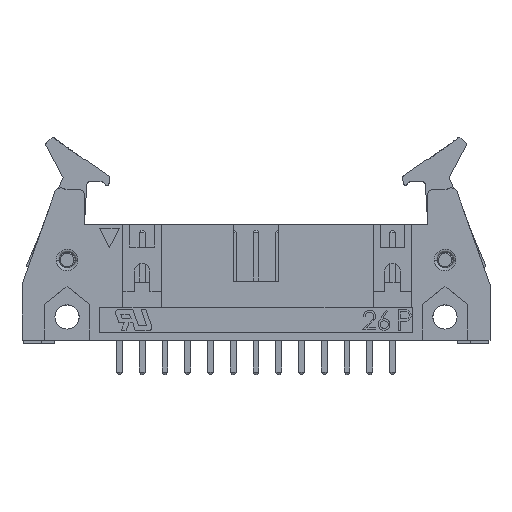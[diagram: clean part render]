
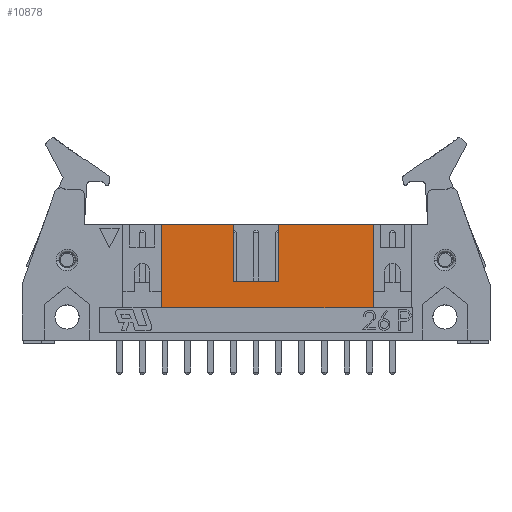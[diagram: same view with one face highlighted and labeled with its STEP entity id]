
A CAD part, top view. The second image highlights one B-rep face of the part: STEP entity #10878.
In plain terms, the highlighted planar face has unit normal (0, 0, 1).
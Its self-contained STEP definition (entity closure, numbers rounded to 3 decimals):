
#170 = PLANE ( 'NONE',  #525 ) ;
#172 = CARTESIAN_POINT ( 'NONE',  ( 485.219, 55.628, 0. ) ) ;
#176 = FACE_OUTER_BOUND ( 'NONE', #2492, .T. ) ;
#178 = DIRECTION ( 'NONE',  ( 0., 0., 1. ) ) ;
#179 = DIRECTION ( 'NONE',  ( 1., 0., 0. ) ) ;
#525 = AXIS2_PLACEMENT_3D ( 'NONE', #172, #178, #179 ) ;
#752 = ORIENTED_EDGE ( 'NONE', *, *, #2166, .T. ) ;
#860 = ORIENTED_EDGE ( 'NONE', *, *, #2173, .T. ) ;
#917 = ORIENTED_EDGE ( 'NONE', *, *, #2136, .T. ) ;
#940 = ORIENTED_EDGE ( 'NONE', *, *, #2139, .T. ) ;
#968 = ORIENTED_EDGE ( 'NONE', *, *, #1596, .T. ) ;
#969 = ORIENTED_EDGE ( 'NONE', *, *, #9618, .T. ) ;
#980 = ORIENTED_EDGE ( 'NONE', *, *, #1584, .T. ) ;
#981 = ORIENTED_EDGE ( 'NONE', *, *, #1524, .T. ) ;
#1366 = VECTOR ( 'NONE', #12771, 1000. ) ;
#1524 = EDGE_CURVE ( 'NONE', #10249, #10240, #12413, .T. ) ;
#1584 = EDGE_CURVE ( 'NONE', #10240, #10247, #12709, .T. ) ;
#1596 = EDGE_CURVE ( 'NONE', #10239, #10249, #12755, .T. ) ;
#2136 = EDGE_CURVE ( 'NONE', #10283, #10278, #6577, .T. ) ;
#2139 = EDGE_CURVE ( 'NONE', #10286, #10283, #6586, .T. ) ;
#2166 = EDGE_CURVE ( 'NONE', #10301, #10286, #6667, .T. ) ;
#2173 = EDGE_CURVE ( 'NONE', #10247, #10301, #6671, .T. ) ;
#2492 = EDGE_LOOP ( 'NONE', ( #969, #968, #981, #980, #860, #752, #940, #917 ) ) ;
#2708 = VECTOR ( 'NONE', #12711, 1000. ) ;
#4408 = LINE ( 'NONE', #4416, #14543 ) ;
#4416 = CARTESIAN_POINT ( 'NONE',  ( 485.219, 58.528, 0. ) ) ;
#4417 = DIRECTION ( 'NONE',  ( -1., 0., 0. ) ) ;
#6577 = LINE ( 'NONE', #6578, #14311 ) ;
#6578 = CARTESIAN_POINT ( 'NONE',  ( 498.319, 60.278, 0. ) ) ;
#6579 = DIRECTION ( 'NONE',  ( 0., -1., 0. ) ) ;
#6586 = LINE ( 'NONE', #6587, #14314 ) ;
#6587 = CARTESIAN_POINT ( 'NONE',  ( 497.029, 64.928, 0. ) ) ;
#6588 = DIRECTION ( 'NONE',  ( -1., 0., 0. ) ) ;
#6667 = LINE ( 'NONE', #6668, #14343 ) ;
#6668 = CARTESIAN_POINT ( 'NONE',  ( 508.839, 60.278, 0. ) ) ;
#6669 = DIRECTION ( 'NONE',  ( 0., 1., 0. ) ) ;
#6671 = LINE ( 'NONE', #6689, #14348 ) ;
#6689 = CARTESIAN_POINT ( 'NONE',  ( 497.029, 55.628, 0. ) ) ;
#6690 = DIRECTION ( 'NONE',  ( 1., 0., 0. ) ) ;
#8337 = CARTESIAN_POINT ( 'NONE',  ( 493.219, 58.528, 0. ) ) ;
#8338 = CARTESIAN_POINT ( 'NONE',  ( 485.219, 64.928, 0. ) ) ;
#8346 = CARTESIAN_POINT ( 'NONE',  ( 485.219, 55.628, 0. ) ) ;
#8348 = CARTESIAN_POINT ( 'NONE',  ( 493.219, 64.928, 0. ) ) ;
#8377 = CARTESIAN_POINT ( 'NONE',  ( 498.319, 58.528, 0. ) ) ;
#8382 = CARTESIAN_POINT ( 'NONE',  ( 498.319, 64.928, 0. ) ) ;
#8385 = CARTESIAN_POINT ( 'NONE',  ( 508.839, 64.928, 0. ) ) ;
#8400 = CARTESIAN_POINT ( 'NONE',  ( 508.839, 55.628, 0. ) ) ;
#9618 = EDGE_CURVE ( 'NONE', #10278, #10239, #4408, .T. ) ;
#10239 = VERTEX_POINT ( 'NONE', #8337 ) ;
#10240 = VERTEX_POINT ( 'NONE', #8338 ) ;
#10247 = VERTEX_POINT ( 'NONE', #8346 ) ;
#10249 = VERTEX_POINT ( 'NONE', #8348 ) ;
#10278 = VERTEX_POINT ( 'NONE', #8377 ) ;
#10283 = VERTEX_POINT ( 'NONE', #8382 ) ;
#10286 = VERTEX_POINT ( 'NONE', #8385 ) ;
#10301 = VERTEX_POINT ( 'NONE', #8400 ) ;
#10878 = ADVANCED_FACE ( 'NONE', ( #176 ), #170, .T. ) ;
#11979 = VECTOR ( 'NONE', #12430, 1000. ) ;
#12413 = LINE ( 'NONE', #12427, #11979 ) ;
#12427 = CARTESIAN_POINT ( 'NONE',  ( 497.029, 64.928, 0. ) ) ;
#12430 = DIRECTION ( 'NONE',  ( -1., 0., 0. ) ) ;
#12709 = LINE ( 'NONE', #12710, #2708 ) ;
#12710 = CARTESIAN_POINT ( 'NONE',  ( 485.219, 60.278, 0. ) ) ;
#12711 = DIRECTION ( 'NONE',  ( 0., -1., 0. ) ) ;
#12755 = LINE ( 'NONE', #12770, #1366 ) ;
#12770 = CARTESIAN_POINT ( 'NONE',  ( 493.219, 60.278, 0. ) ) ;
#12771 = DIRECTION ( 'NONE',  ( 0., 1., 0. ) ) ;
#14311 = VECTOR ( 'NONE', #6579, 1000. ) ;
#14314 = VECTOR ( 'NONE', #6588, 1000. ) ;
#14343 = VECTOR ( 'NONE', #6669, 1000. ) ;
#14348 = VECTOR ( 'NONE', #6690, 1000. ) ;
#14543 = VECTOR ( 'NONE', #4417, 1000. ) ;
